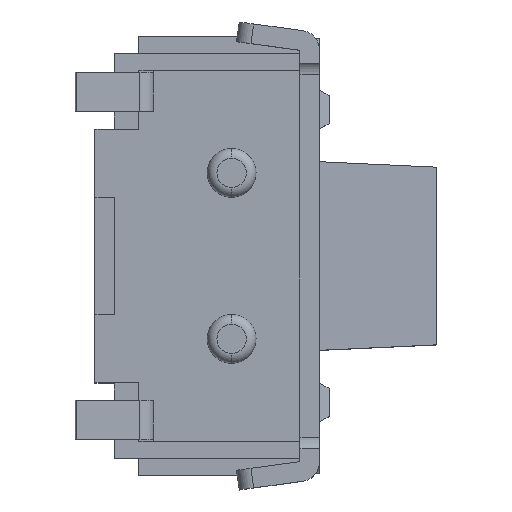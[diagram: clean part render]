
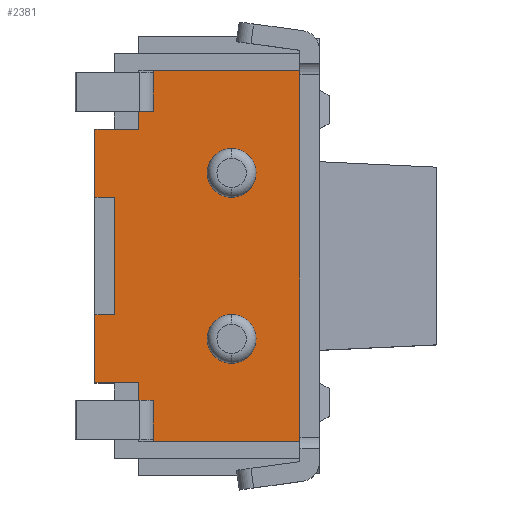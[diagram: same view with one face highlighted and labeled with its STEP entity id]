
A CAD part, top view. The second image highlights one B-rep face of the part: STEP entity #2381.
In plain terms, the highlighted planar face has unit normal (0, 0, 1).
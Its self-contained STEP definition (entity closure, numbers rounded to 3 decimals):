
#100=CARTESIAN_POINT('',(1.4,0.85,0.85));
#101=DIRECTION('',(0.,0.,1.));
#102=DIRECTION('',(0.,-1.,0.));
#103=AXIS2_PLACEMENT_3D('',#100,#101,#102);
#108=CARTESIAN_POINT('',(1.4,0.85,0.85));
#109=DIRECTION('',(0.,0.,1.));
#110=DIRECTION('',(0.,1.,0.));
#111=AXIS2_PLACEMENT_3D('',#108,#109,#110);
#116=CARTESIAN_POINT('',(1.4,-0.85,0.85));
#117=DIRECTION('',(0.,0.,1.));
#118=DIRECTION('',(0.,-1.,0.));
#119=AXIS2_PLACEMENT_3D('',#116,#117,#118);
#124=CARTESIAN_POINT('',(1.4,-0.85,0.85));
#125=DIRECTION('',(0.,0.,1.));
#126=DIRECTION('',(0.,1.,0.));
#127=AXIS2_PLACEMENT_3D('',#124,#125,#126);
#132=DIRECTION('',(1.,0.,0.));
#133=VECTOR('',#132,0.15);
#134=CARTESIAN_POINT('',(0.45,1.48,0.85));
#135=LINE('',#134,#133);
#139=DIRECTION('',(0.,-1.,0.));
#140=VECTOR('',#139,0.42);
#141=CARTESIAN_POINT('',(0.6,1.9,0.85));
#142=LINE('',#141,#140);
#146=DIRECTION('',(0.,1.,0.));
#147=VECTOR('',#146,0.42);
#148=CARTESIAN_POINT('',(0.6,-1.9,0.85));
#149=LINE('',#148,#147);
#153=DIRECTION('',(-1.,0.,0.));
#154=VECTOR('',#153,0.15);
#155=CARTESIAN_POINT('',(0.6,-1.48,0.85));
#156=LINE('',#155,#154);
#160=DIRECTION('',(0.,1.,0.));
#161=VECTOR('',#160,0.18);
#162=CARTESIAN_POINT('',(0.45,-1.48,0.85));
#163=LINE('',#162,#161);
#167=DIRECTION('',(-1.,0.,0.));
#168=VECTOR('',#167,0.45);
#169=CARTESIAN_POINT('',(0.45,-1.3,0.85));
#170=LINE('',#169,#168);
#174=DIRECTION('',(0.,1.,0.));
#175=VECTOR('',#174,0.7);
#176=CARTESIAN_POINT('',(0.,-1.3,0.85));
#177=LINE('',#176,#175);
#181=DIRECTION('',(0.,1.,0.));
#182=VECTOR('',#181,1.2);
#183=CARTESIAN_POINT('',(0.2,-0.6,0.85));
#184=LINE('',#183,#182);
#188=DIRECTION('',(-1.,0.,0.));
#189=VECTOR('',#188,0.2);
#190=CARTESIAN_POINT('',(0.2,0.6,0.85));
#191=LINE('',#190,#189);
#195=DIRECTION('',(0.,1.,0.));
#196=VECTOR('',#195,0.7);
#197=CARTESIAN_POINT('',(0.,0.6,0.85));
#198=LINE('',#197,#196);
#202=DIRECTION('',(0.,1.,0.));
#203=VECTOR('',#202,0.18);
#204=CARTESIAN_POINT('',(0.45,1.3,0.85));
#205=LINE('',#204,#203);
#341=DIRECTION('',(-1.,0.,0.));
#342=VECTOR('',#341,1.5);
#343=CARTESIAN_POINT('',(2.1,1.9,0.85));
#344=LINE('',#343,#342);
#376=DIRECTION('',(-1.,0.,0.));
#377=VECTOR('',#376,0.45);
#378=CARTESIAN_POINT('',(0.45,1.3,0.85));
#379=LINE('',#378,#377);
#824=DIRECTION('',(0.,1.,0.));
#825=VECTOR('',#824,3.8);
#826=CARTESIAN_POINT('',(2.1,-1.9,0.85));
#827=LINE('',#826,#825);
#950=DIRECTION('',(1.,0.,0.));
#951=VECTOR('',#950,1.5);
#952=CARTESIAN_POINT('',(0.6,-1.9,0.85));
#953=LINE('',#952,#951);
#1048=DIRECTION('',(-1.,0.,0.));
#1049=VECTOR('',#1048,0.2);
#1050=CARTESIAN_POINT('',(0.2,-0.6,0.85));
#1051=LINE('',#1050,#1049);
#2124=CARTESIAN_POINT('',(0.,0.6,0.85));
#2125=CARTESIAN_POINT('',(0.,1.3,0.85));
#2126=VERTEX_POINT('',#2124);
#2127=VERTEX_POINT('',#2125);
#2128=CARTESIAN_POINT('',(0.,-1.3,0.85));
#2129=CARTESIAN_POINT('',(0.,-0.6,0.85));
#2130=VERTEX_POINT('',#2128);
#2131=VERTEX_POINT('',#2129);
#2132=CARTESIAN_POINT('',(0.45,1.3,0.85));
#2133=VERTEX_POINT('',#2132);
#2134=CARTESIAN_POINT('',(0.2,0.6,0.85));
#2135=VERTEX_POINT('',#2134);
#2136=CARTESIAN_POINT('',(0.45,-1.3,0.85));
#2137=VERTEX_POINT('',#2136);
#2138=CARTESIAN_POINT('',(0.2,-0.6,0.85));
#2139=VERTEX_POINT('',#2138);
#2140=CARTESIAN_POINT('',(1.4,0.6,0.85));
#2141=CARTESIAN_POINT('',(1.4,1.1,0.85));
#2142=VERTEX_POINT('',#2140);
#2143=VERTEX_POINT('',#2141);
#2144=CARTESIAN_POINT('',(1.4,-1.1,0.85));
#2145=CARTESIAN_POINT('',(1.4,-0.6,0.85));
#2146=VERTEX_POINT('',#2144);
#2147=VERTEX_POINT('',#2145);
#2148=CARTESIAN_POINT('',(2.1,-1.9,0.85));
#2149=CARTESIAN_POINT('',(2.1,1.9,0.85));
#2150=VERTEX_POINT('',#2148);
#2151=VERTEX_POINT('',#2149);
#2240=CARTESIAN_POINT('',(0.6,1.9,0.85));
#2241=VERTEX_POINT('',#2240);
#2246=CARTESIAN_POINT('',(0.6,-1.9,0.85));
#2247=VERTEX_POINT('',#2246);
#2250=CARTESIAN_POINT('',(0.45,1.48,0.85));
#2251=VERTEX_POINT('',#2250);
#2254=CARTESIAN_POINT('',(0.45,-1.48,0.85));
#2255=VERTEX_POINT('',#2254);
#2256=CARTESIAN_POINT('',(0.6,1.48,0.85));
#2257=VERTEX_POINT('',#2256);
#2258=CARTESIAN_POINT('',(0.6,-1.48,0.85));
#2259=VERTEX_POINT('',#2258);
#2332=CARTESIAN_POINT('',(0.,1.9,0.85));
#2333=DIRECTION('',(0.,0.,1.));
#2334=DIRECTION('',(0.,-1.,0.));
#2335=AXIS2_PLACEMENT_3D('',#2332,#2333,#2334);
#2336=PLANE('',#2335);
#2338=ORIENTED_EDGE('',*,*,#2337,.T.);
#2340=ORIENTED_EDGE('',*,*,#2339,.F.);
#2342=ORIENTED_EDGE('',*,*,#2341,.F.);
#2344=ORIENTED_EDGE('',*,*,#2343,.F.);
#2346=ORIENTED_EDGE('',*,*,#2345,.F.);
#2348=ORIENTED_EDGE('',*,*,#2347,.T.);
#2350=ORIENTED_EDGE('',*,*,#2349,.T.);
#2352=ORIENTED_EDGE('',*,*,#2351,.T.);
#2354=ORIENTED_EDGE('',*,*,#2353,.T.);
#2356=ORIENTED_EDGE('',*,*,#2355,.T.);
#2358=ORIENTED_EDGE('',*,*,#2357,.F.);
#2360=ORIENTED_EDGE('',*,*,#2359,.T.);
#2362=ORIENTED_EDGE('',*,*,#2361,.T.);
#2364=ORIENTED_EDGE('',*,*,#2363,.T.);
#2366=ORIENTED_EDGE('',*,*,#2365,.F.);
#2368=ORIENTED_EDGE('',*,*,#2367,.T.);
#2369=EDGE_LOOP('',(#2338,#2340,#2342,#2344,#2346,#2348,#2350,#2352,#2354,#2356,
#2358,#2360,#2362,#2364,#2366,#2368));
#2370=FACE_OUTER_BOUND('',#2369,.F.);
#2372=ORIENTED_EDGE('',*,*,#2371,.T.);
#2374=ORIENTED_EDGE('',*,*,#2373,.T.);
#2375=EDGE_LOOP('',(#2372,#2374));
#2376=FACE_BOUND('',#2375,.F.);
#2377=ORIENTED_EDGE('',*,*,#2326,.T.);
#2378=ORIENTED_EDGE('',*,*,#2312,.T.);
#2379=EDGE_LOOP('',(#2377,#2378));
#2380=FACE_BOUND('',#2379,.F.);
#104=CIRCLE('',#103,0.25);
#112=CIRCLE('',#111,0.25);
#120=CIRCLE('',#119,0.25);
#128=CIRCLE('',#127,0.25);
#2312=EDGE_CURVE('',#2143,#2142,#112,.T.);
#2326=EDGE_CURVE('',#2142,#2143,#104,.T.);
#2337=EDGE_CURVE('',#2251,#2257,#135,.T.);
#2339=EDGE_CURVE('',#2241,#2257,#142,.T.);
#2341=EDGE_CURVE('',#2151,#2241,#344,.T.);
#2343=EDGE_CURVE('',#2150,#2151,#827,.T.);
#2345=EDGE_CURVE('',#2247,#2150,#953,.T.);
#2347=EDGE_CURVE('',#2247,#2259,#149,.T.);
#2349=EDGE_CURVE('',#2259,#2255,#156,.T.);
#2351=EDGE_CURVE('',#2255,#2137,#163,.T.);
#2353=EDGE_CURVE('',#2137,#2130,#170,.T.);
#2355=EDGE_CURVE('',#2130,#2131,#177,.T.);
#2357=EDGE_CURVE('',#2139,#2131,#1051,.T.);
#2359=EDGE_CURVE('',#2139,#2135,#184,.T.);
#2361=EDGE_CURVE('',#2135,#2126,#191,.T.);
#2363=EDGE_CURVE('',#2126,#2127,#198,.T.);
#2365=EDGE_CURVE('',#2133,#2127,#379,.T.);
#2367=EDGE_CURVE('',#2133,#2251,#205,.T.);
#2371=EDGE_CURVE('',#2146,#2147,#120,.T.);
#2373=EDGE_CURVE('',#2147,#2146,#128,.T.);
#2381=ADVANCED_FACE('',(#2370,#2376,#2380),#2336,.T.);
